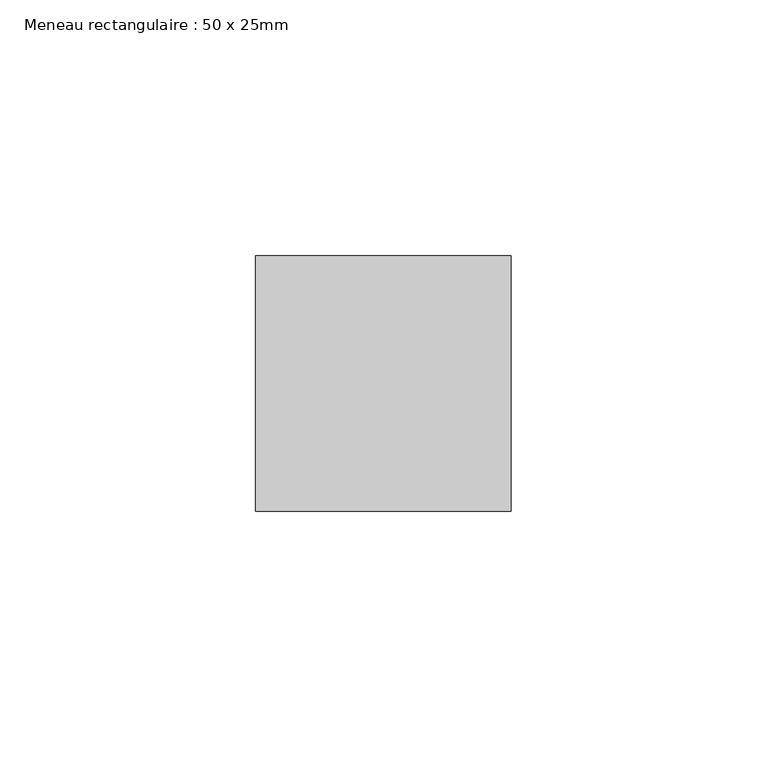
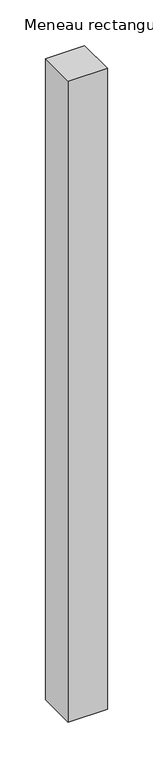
"""IFC4 building model written with IfcOpenShell, lengths in millimetres: member geometry, Meneau rectangulaire : 50 x 25mm."""

from ifc_helpers import new_model, si_unit, frame, origin, place, context, project, spatial, polyline, outline, extrude, source, transform, mapped, element, save


def meneau_rectangulaire_50_x_25mm_1c966a8a(model_context):
    return source(origin(), model_context, "Body", "SweptSolid", [
        extrude(outline(polyline([(0.0, 0.0), (0.0, -50.0), (-50.0, -50.0), (-50.0, 0.0), (0.0, 0.0)])), frame((0.0, 0.0, -860.0), z_axis=(0.0, 0.0, 1.0), x_axis=(1.0, 0.0, 0.0)), (0.0, 0.0, 1.0), 860.0),
    ])


if __name__ == "__main__":
    model = new_model("IFC4")
    model_context = context("Model", 3, world=origin())
    ifc_project = project(units=[si_unit("LENGTHUNIT", "METRE", prefix="MILLI")], contexts=[model_context])
    site = spatial("IfcSite", under=ifc_project)
    building = spatial("IfcBuilding", under=site)
    placement = place(None, origin())
    meneau_rectangulaire_50_x_25mm_shape = meneau_rectangulaire_50_x_25mm_1c966a8a(model_context)
    element("IfcMember", 1, ObjectType="Meneau rectangulaire : 50 x 25mm", at=placement, inside=building, context=model_context, shape_type="MappedRepresentation", body=[
        mapped(meneau_rectangulaire_50_x_25mm_shape, transform((0.0, 0.0, 0.0), x_axis=(1.0, 0.0, 0.0), y_axis=(0.0, 1.0, 0.0), z_axis=(0.0, 0.0, 1.0))),
    ])
    save(model, "model.ifc")
